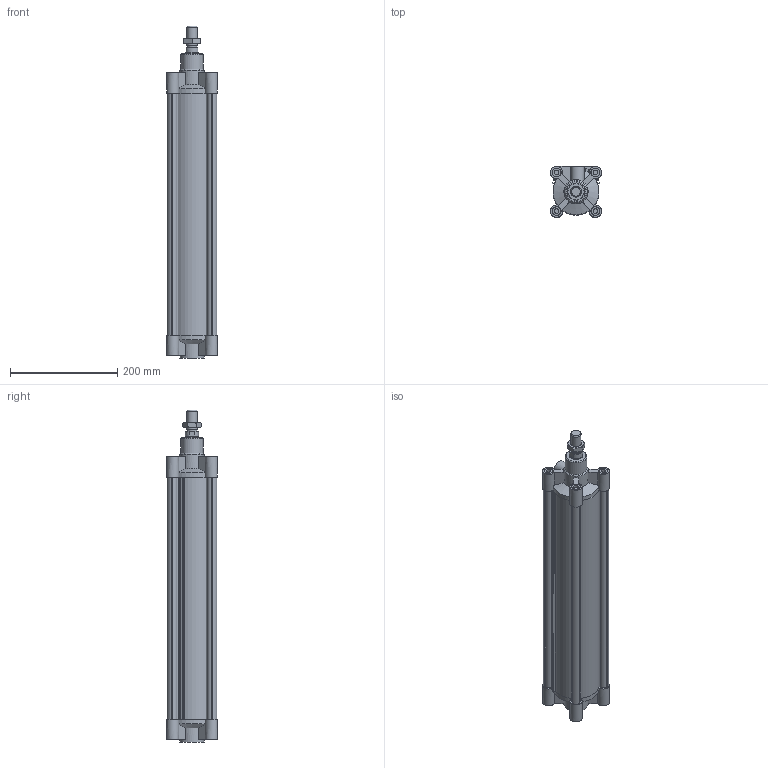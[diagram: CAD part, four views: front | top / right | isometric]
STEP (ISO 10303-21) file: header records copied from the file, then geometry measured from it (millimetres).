
FILE_DESCRIPTION((''),'2;1');
FILE_NAME('I:\Area Tecnica\Disegni\VARIE-3D\Componenti\ECOLIGHT\139#.##_0000_01\stp\139#_80_0400_01.iam.stp','2012-01-28T08:03:19',(''),(''),'Autodesk Inventor 2012','Autodesk Inventor 2012','');
FILE_SCHEMA(('AUTOMOTIVE_DESIGN { 1 0 10303 214 1 1 1 1 }'));
Length unit declared in the file: millimetre
Products named in the file (6): 139#_80_0400_01; CPL080_004-400; CPL080-001-01; CPL080-002-01; CPL_80_0400; 1320_80_18F
Assembly tree (5 placements, depth 2):
  139#_80_0400_01
    CPL080_004-400
    CPL080-001-01
    CPL080-002-01
    CPL_80_0400
    1320_80_18F
Bounding box: 95 x 95 x 618.5 mm (x, y, z)
Volume: 1584381.6 mm3; surface area: 549317.5 mm2
Topology: 5 solids, 5 shells, 264 faces, 648 edges, 426 vertices
Faces by surface type: plane 154, cylinder 83, cone 26, torus 1
Full cylindrical faces by diameter (mm): 8.5 x8, 12 x2, 15.2 x2, 16 x8, 16.5 x8, 18 x1, 18.5 x1, 20 x1, 24.5 x1, 25 x2, 41 x1, 45 x2, 80 x4
Entity records: 7874 total; most frequent: CARTESIAN_POINT 1483, DIRECTION 1288, ORIENTED_EDGE 1186, EDGE_CURVE 593, AXIS2_PLACEMENT_3D 476, VERTEX_POINT 419, EDGE_LOOP 358, VECTOR 336
